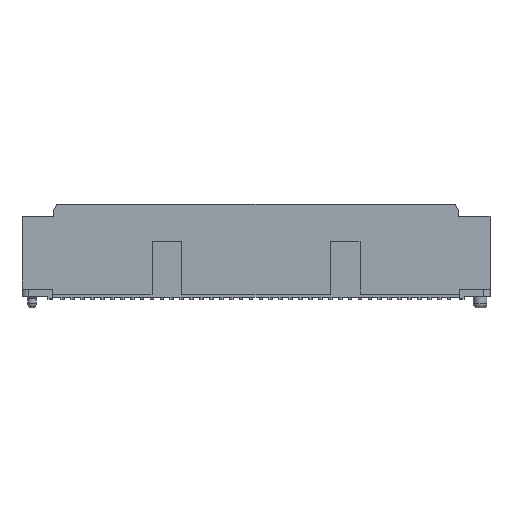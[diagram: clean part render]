
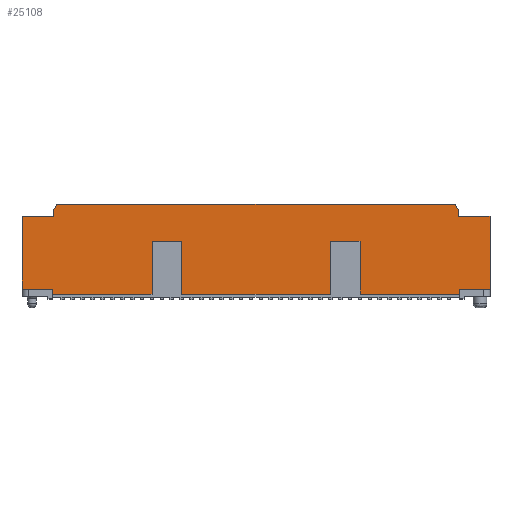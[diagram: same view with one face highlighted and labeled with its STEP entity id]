
A CAD part, top view. The second image highlights one B-rep face of the part: STEP entity #25108.
In plain terms, the highlighted planar face has unit normal (0, 0, 1).
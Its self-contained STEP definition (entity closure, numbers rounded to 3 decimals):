
#117=DIRECTION('',(0.,1.,0.));
#118=VECTOR('',#117,5.88);
#119=CARTESIAN_POINT('',(18.9,0.8,2.5));
#120=LINE('14207',#119,#118);
#149=DIRECTION('',(-1.,0.,0.));
#150=VECTOR('',#149,8.);
#151=CARTESIAN_POINT('',(16.4,0.4,2.5));
#152=LINE('38455',#151,#150);
#153=DIRECTION('',(0.,1.,0.));
#154=VECTOR('',#153,4.25);
#155=CARTESIAN_POINT('',(8.4,0.4,2.5));
#156=LINE('77993',#155,#154);
#157=DIRECTION('',(1.,0.,0.));
#158=VECTOR('',#157,2.4);
#159=CARTESIAN_POINT('',(6.,4.65,2.5));
#160=LINE('27701',#159,#158);
#161=DIRECTION('',(0.,1.,0.));
#162=VECTOR('',#161,4.25);
#163=CARTESIAN_POINT('',(6.,0.4,2.5));
#164=LINE('77996',#163,#162);
#165=DIRECTION('',(-1.,0.,0.));
#166=VECTOR('',#165,12.);
#167=CARTESIAN_POINT('',(6.,0.4,2.5));
#168=LINE('38456',#167,#166);
#169=DIRECTION('',(0.,1.,0.));
#170=VECTOR('',#169,4.25);
#171=CARTESIAN_POINT('',(-6.,0.4,2.5));
#172=LINE('77999',#171,#170);
#173=DIRECTION('',(1.,0.,0.));
#174=VECTOR('',#173,2.4);
#175=CARTESIAN_POINT('',(-8.4,4.65,2.5));
#176=LINE('27702',#175,#174);
#177=DIRECTION('',(0.,1.,0.));
#178=VECTOR('',#177,4.25);
#179=CARTESIAN_POINT('',(-8.4,0.4,2.5));
#180=LINE('78002',#179,#178);
#181=DIRECTION('',(-1.,0.,0.));
#182=VECTOR('',#181,8.);
#183=CARTESIAN_POINT('',(-8.4,0.4,2.5));
#184=LINE('38457',#183,#182);
#185=DIRECTION('',(0.,1.,0.));
#186=VECTOR('',#185,5.88);
#187=CARTESIAN_POINT('',(-18.9,0.8,2.5));
#188=LINE('14206',#187,#186);
#189=DIRECTION('',(1.,0.,0.));
#190=VECTOR('',#189,2.575);
#191=CARTESIAN_POINT('',(-18.9,6.68,2.5));
#192=LINE('14141',#191,#190);
#193=DIRECTION('',(0.,-1.,0.));
#194=VECTOR('',#193,0.537);
#195=CARTESIAN_POINT('',(-16.325,7.217,2.5));
#196=LINE('14323',#195,#194);
#197=DIRECTION('',(-0.5,-0.866,0.));
#198=VECTOR('',#197,0.5);
#199=CARTESIAN_POINT('',(-16.075,7.65,2.5));
#200=LINE('14306',#199,#198);
#201=DIRECTION('',(-0.5,0.866,0.));
#202=VECTOR('',#201,0.5);
#203=CARTESIAN_POINT('',(16.325,7.217,2.5));
#204=LINE('14316',#203,#202);
#205=DIRECTION('',(0.,-1.,0.));
#206=VECTOR('',#205,0.537);
#207=CARTESIAN_POINT('',(16.325,7.217,2.5));
#208=LINE('14322',#207,#206);
#209=DIRECTION('',(-1.,0.,0.));
#210=VECTOR('',#209,2.575);
#211=CARTESIAN_POINT('',(18.9,6.68,2.5));
#212=LINE('14140',#211,#210);
#221=DIRECTION('',(0.,-1.,0.));
#222=VECTOR('',#221,0.4);
#223=CARTESIAN_POINT('',(16.4,0.8,2.5));
#224=LINE('38634',#223,#222);
#4537=DIRECTION('',(0.,-1.,0.));
#4538=VECTOR('',#4537,0.4);
#4539=CARTESIAN_POINT('',(-16.4,0.8,2.5));
#4540=LINE('38635',#4539,#4538);
#4550=DIRECTION('',(1.,0.,0.));
#4551=VECTOR('',#4550,2.5);
#4552=CARTESIAN_POINT('',(-18.9,0.8,2.5));
#4553=LINE('13916',#4552,#4551);
#4592=DIRECTION('',(1.,0.,0.));
#4593=VECTOR('',#4592,2.5);
#4594=CARTESIAN_POINT('',(16.4,0.8,2.5));
#4595=LINE('13917',#4594,#4593);
#5037=DIRECTION('',(1.,0.,0.));
#5038=VECTOR('',#5037,32.15);
#5039=CARTESIAN_POINT('',(-16.075,7.65,2.5));
#5040=LINE('14328',#5039,#5038);
#19115=CARTESIAN_POINT('',(-18.9,0.8,2.5));
#19116=VERTEX_POINT('',#19115);
#19133=CARTESIAN_POINT('',(18.9,0.8,2.5));
#19134=VERTEX_POINT('',#19133);
#19145=CARTESIAN_POINT('',(16.4,0.8,2.5));
#19146=VERTEX_POINT('',#19145);
#19147=CARTESIAN_POINT('',(-16.4,0.8,2.5));
#19148=VERTEX_POINT('',#19147);
#19151=CARTESIAN_POINT('',(18.9,6.68,2.5));
#19152=CARTESIAN_POINT('',(16.325,6.68,2.5));
#19153=VERTEX_POINT('',#19151);
#19154=VERTEX_POINT('',#19152);
#19155=CARTESIAN_POINT('',(-18.9,6.68,2.5));
#19156=CARTESIAN_POINT('',(-16.325,6.68,2.5));
#19157=VERTEX_POINT('',#19155);
#19158=VERTEX_POINT('',#19156);
#19173=CARTESIAN_POINT('',(-16.075,7.65,2.5));
#19174=CARTESIAN_POINT('',(-16.325,7.217,2.5));
#19175=VERTEX_POINT('',#19173);
#19176=VERTEX_POINT('',#19174);
#19185=CARTESIAN_POINT('',(16.325,7.217,2.5));
#19187=VERTEX_POINT('',#19185);
#19189=CARTESIAN_POINT('',(16.075,7.65,2.5));
#19190=VERTEX_POINT('',#19189);
#19343=CARTESIAN_POINT('',(6.,4.65,2.5));
#19344=CARTESIAN_POINT('',(8.4,4.65,2.5));
#19345=VERTEX_POINT('',#19343);
#19346=VERTEX_POINT('',#19344);
#19347=CARTESIAN_POINT('',(-8.4,4.65,2.5));
#19348=CARTESIAN_POINT('',(-6.,4.65,2.5));
#19349=VERTEX_POINT('',#19347);
#19350=VERTEX_POINT('',#19348);
#21735=CARTESIAN_POINT('',(16.4,0.4,2.5));
#21736=CARTESIAN_POINT('',(8.4,0.4,2.5));
#21737=VERTEX_POINT('',#21735);
#21738=VERTEX_POINT('',#21736);
#21739=CARTESIAN_POINT('',(6.,0.4,2.5));
#21740=CARTESIAN_POINT('',(-6.,0.4,2.5));
#21741=VERTEX_POINT('',#21739);
#21742=VERTEX_POINT('',#21740);
#21743=CARTESIAN_POINT('',(-8.4,0.4,2.5));
#21744=CARTESIAN_POINT('',(-16.4,0.4,2.5));
#21745=VERTEX_POINT('',#21743);
#21746=VERTEX_POINT('',#21744);
#25058=CARTESIAN_POINT('',(-18.9,0.15,2.5));
#25059=DIRECTION('',(0.,0.,1.));
#25060=DIRECTION('',(1.,0.,0.));
#25061=AXIS2_PLACEMENT_3D('',#25058,#25059,#25060);
#25062=PLANE('13757',#25061);
#25064=ORIENTED_EDGE('38455',*,*,#25063,.T.);
#25066=ORIENTED_EDGE('77993',*,*,#25065,.T.);
#25068=ORIENTED_EDGE('27701',*,*,#25067,.F.);
#25070=ORIENTED_EDGE('77996',*,*,#25069,.F.);
#25072=ORIENTED_EDGE('38456',*,*,#25071,.T.);
#25074=ORIENTED_EDGE('77999',*,*,#25073,.T.);
#25076=ORIENTED_EDGE('27702',*,*,#25075,.F.);
#25078=ORIENTED_EDGE('78002',*,*,#25077,.F.);
#25080=ORIENTED_EDGE('38457',*,*,#25079,.T.);
#25082=ORIENTED_EDGE('38635',*,*,#25081,.F.);
#25084=ORIENTED_EDGE('13916',*,*,#25083,.F.);
#25086=ORIENTED_EDGE('14206',*,*,#25085,.T.);
#25088=ORIENTED_EDGE('14141',*,*,#25087,.T.);
#25090=ORIENTED_EDGE('14323',*,*,#25089,.F.);
#25092=ORIENTED_EDGE('14306',*,*,#25091,.F.);
#25094=ORIENTED_EDGE('14328',*,*,#25093,.T.);
#25096=ORIENTED_EDGE('14316',*,*,#25095,.F.);
#25098=ORIENTED_EDGE('14322',*,*,#25097,.T.);
#25100=ORIENTED_EDGE('14140',*,*,#25099,.F.);
#25101=ORIENTED_EDGE('14207',*,*,#25031,.F.);
#25103=ORIENTED_EDGE('13917',*,*,#25102,.F.);
#25105=ORIENTED_EDGE('38634',*,*,#25104,.T.);
#25106=EDGE_LOOP('13757',(#25064,#25066,#25068,#25070,#25072,#25074,#25076,
#25078,#25080,#25082,#25084,#25086,#25088,#25090,#25092,#25094,#25096,#25098,
#25100,#25101,#25103,#25105));
#25107=FACE_OUTER_BOUND('13757',#25106,.F.);
#25108=ADVANCED_FACE('13757',(#25107),#25062,.T.);
#25031=EDGE_CURVE('14207',#19134,#19153,#120,.T.);
#25063=EDGE_CURVE('38455',#21737,#21738,#152,.T.);
#25065=EDGE_CURVE('77993',#21738,#19346,#156,.T.);
#25067=EDGE_CURVE('27701',#19345,#19346,#160,.T.);
#25069=EDGE_CURVE('77996',#21741,#19345,#164,.T.);
#25071=EDGE_CURVE('38456',#21741,#21742,#168,.T.);
#25073=EDGE_CURVE('77999',#21742,#19350,#172,.T.);
#25075=EDGE_CURVE('27702',#19349,#19350,#176,.T.);
#25077=EDGE_CURVE('78002',#21745,#19349,#180,.T.);
#25079=EDGE_CURVE('38457',#21745,#21746,#184,.T.);
#25081=EDGE_CURVE('38635',#19148,#21746,#4540,.T.);
#25083=EDGE_CURVE('13916',#19116,#19148,#4553,.T.);
#25085=EDGE_CURVE('14206',#19116,#19157,#188,.T.);
#25087=EDGE_CURVE('14141',#19157,#19158,#192,.T.);
#25089=EDGE_CURVE('14323',#19176,#19158,#196,.T.);
#25091=EDGE_CURVE('14306',#19175,#19176,#200,.T.);
#25093=EDGE_CURVE('14328',#19175,#19190,#5040,.T.);
#25095=EDGE_CURVE('14316',#19187,#19190,#204,.T.);
#25097=EDGE_CURVE('14322',#19187,#19154,#208,.T.);
#25099=EDGE_CURVE('14140',#19153,#19154,#212,.T.);
#25102=EDGE_CURVE('13917',#19146,#19134,#4595,.T.);
#25104=EDGE_CURVE('38634',#19146,#21737,#224,.T.);
